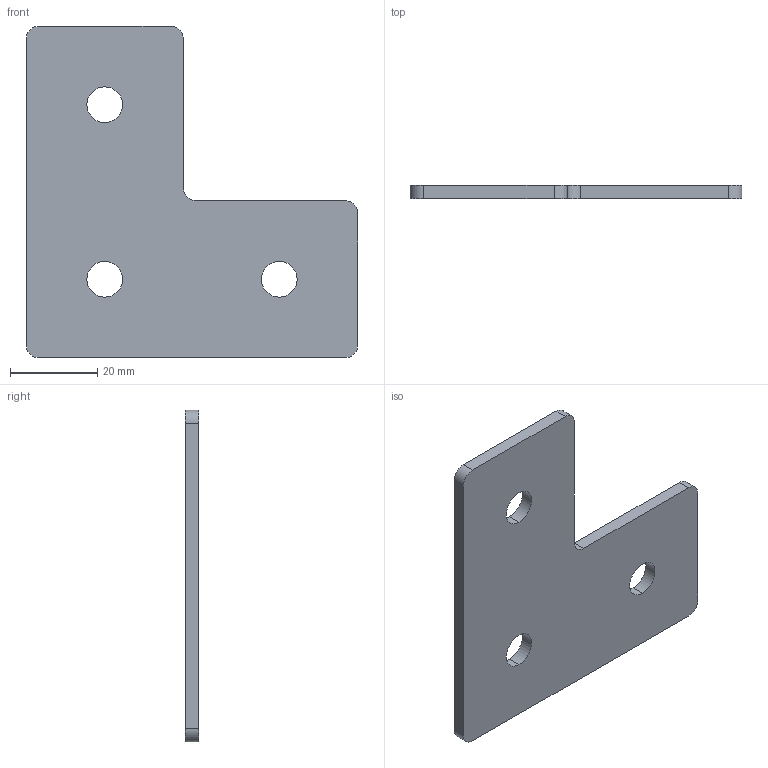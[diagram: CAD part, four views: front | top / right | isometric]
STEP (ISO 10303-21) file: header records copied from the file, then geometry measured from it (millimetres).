
FILE_DESCRIPTION (( 'STEP AP203' ), '1' );
FILE_NAME ('Ã-3-40.STEP', '2016-07-19T11:22:25', ( 'RosInstal-MKM' ), ( '' ), 'SwSTEP 2.0', 'SolidWorks 2014', '' );
FILE_SCHEMA (( 'CONFIG_CONTROL_DESIGN' ));
Length unit declared in the file: millimetre
Products named in the file (1): ﾃ-3-40
Bounding box: 76 x 3 x 76 mm (x, y, z)
Volume: 12029.5 mm3; surface area: 9140.4 mm2
Topology: 1 solids, 1 shells, 20 faces, 54 edges, 36 vertices
Faces by surface type: cylinder 12, plane 8
Entity records: 731 total; most frequent: DIRECTION 120, CARTESIAN_POINT 111, ORIENTED_EDGE 108, EDGE_CURVE 54, AXIS2_PLACEMENT_3D 45, VERTEX_POINT 36, LINE 30, VECTOR 30
